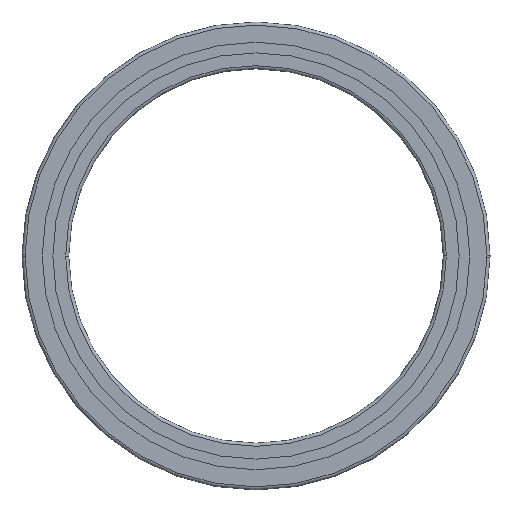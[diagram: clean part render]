
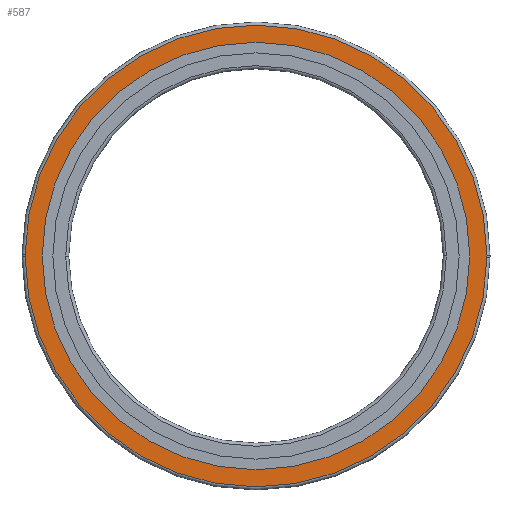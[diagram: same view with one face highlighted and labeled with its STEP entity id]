
A CAD part, front view. The second image highlights one B-rep face of the part: STEP entity #587.
In plain terms, the highlighted planar face has unit normal (0, -1, 0).
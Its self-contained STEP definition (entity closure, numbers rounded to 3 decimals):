
#387=VERTEX_POINT('',#933);
#409=VERTEX_POINT('',#958);
#421=VERTEX_POINT('',#971);
#463=EDGE_CURVE('',#481,#489,#1015,.T.);
#481=VERTEX_POINT('',#1034);
#489=VERTEX_POINT('',#1042);
#517=EDGE_CURVE('',#409,#481,#1072,.T.);
#543=EDGE_CURVE('',#421,#617,#1103,.T.);
#583=EDGE_CURVE('',#617,#421,#1154,.T.);
#587=ADVANCED_FACE('',(#1158,#1159),#1160,.F.);
#599=EDGE_CURVE('',#387,#409,#1174,.T.);
#617=VERTEX_POINT('',#1195);
#739=EDGE_CURVE('',#489,#387,#1336,.T.);
#933=CARTESIAN_POINT('',(147.997,0.0,-0.916));
#958=CARTESIAN_POINT('',(148.0,0.0,0.0));
#971=CARTESIAN_POINT('',(-137.0,0.0,0.0));
#1015=CIRCLE('',#1664,148.0);
#1034=CARTESIAN_POINT('',(-147.997,0.0,0.916));
#1042=CARTESIAN_POINT('',(-148.0,0.0,0.));
#1072=CIRCLE('',#1736,148.0);
#1103=CIRCLE('',#1776,137.0);
#1154=CIRCLE('',#1835,137.0);
#1158=FACE_OUTER_BOUND('',#1840,.T.);
#1159=FACE_BOUND('',#1841,.T.);
#1160=PLANE('',#1842);
#1174=CIRCLE('',#1859,148.0);
#1195=CARTESIAN_POINT('',(137.0,0.0,0.));
#1336=CIRCLE('',#2052,148.0);
#1664=AXIS2_PLACEMENT_3D('',#2372,#2373,#2374);
#1736=AXIS2_PLACEMENT_3D('',#2438,#2439,#2440);
#1776=AXIS2_PLACEMENT_3D('',#2487,#2488,#2489);
#1835=AXIS2_PLACEMENT_3D('',#2574,#2575,#2576);
#1840=EDGE_LOOP('',(#2581,#2582,#2583,#2584));
#1841=EDGE_LOOP('',(#2585,#2586));
#1842=AXIS2_PLACEMENT_3D('',#2587,#2588,#2589);
#1859=AXIS2_PLACEMENT_3D('',#2612,#2613,#2614);
#2052=AXIS2_PLACEMENT_3D('',#2850,#2851,#2852);
#2372=CARTESIAN_POINT('',(0.0,0.0,0.0));
#2373=DIRECTION('',(0.0,-1.0,0.0));
#2374=DIRECTION('',(1.0,0.0,0.0));
#2438=CARTESIAN_POINT('',(0.0,0.0,0.0));
#2439=DIRECTION('',(0.0,-1.0,0.0));
#2440=DIRECTION('',(1.0,0.0,0.0));
#2487=CARTESIAN_POINT('',(0.0,0.0,0.0));
#2488=DIRECTION('',(0.0,-1.0,0.0));
#2489=DIRECTION('',(-1.0,0.0,0.0));
#2574=CARTESIAN_POINT('',(0.0,0.0,0.0));
#2575=DIRECTION('',(0.0,-1.0,0.0));
#2576=DIRECTION('',(1.0,0.0,0.0));
#2581=ORIENTED_EDGE('',*,*,#517,.T.);
#2582=ORIENTED_EDGE('',*,*,#463,.T.);
#2583=ORIENTED_EDGE('',*,*,#739,.T.);
#2584=ORIENTED_EDGE('',*,*,#599,.T.);
#2585=ORIENTED_EDGE('',*,*,#543,.F.);
#2586=ORIENTED_EDGE('',*,*,#583,.F.);
#2587=CARTESIAN_POINT('',(0.0,0.0,0.0));
#2588=DIRECTION('',(0.0,1.0,0.0));
#2589=DIRECTION('',(1.0,0.0,-0.0));
#2612=CARTESIAN_POINT('',(0.0,0.0,0.0));
#2613=DIRECTION('',(0.0,-1.0,0.0));
#2614=DIRECTION('',(-1.0,0.0,0.0));
#2850=CARTESIAN_POINT('',(0.0,0.0,0.0));
#2851=DIRECTION('',(0.0,-1.0,0.0));
#2852=DIRECTION('',(-1.0,0.0,0.0));
